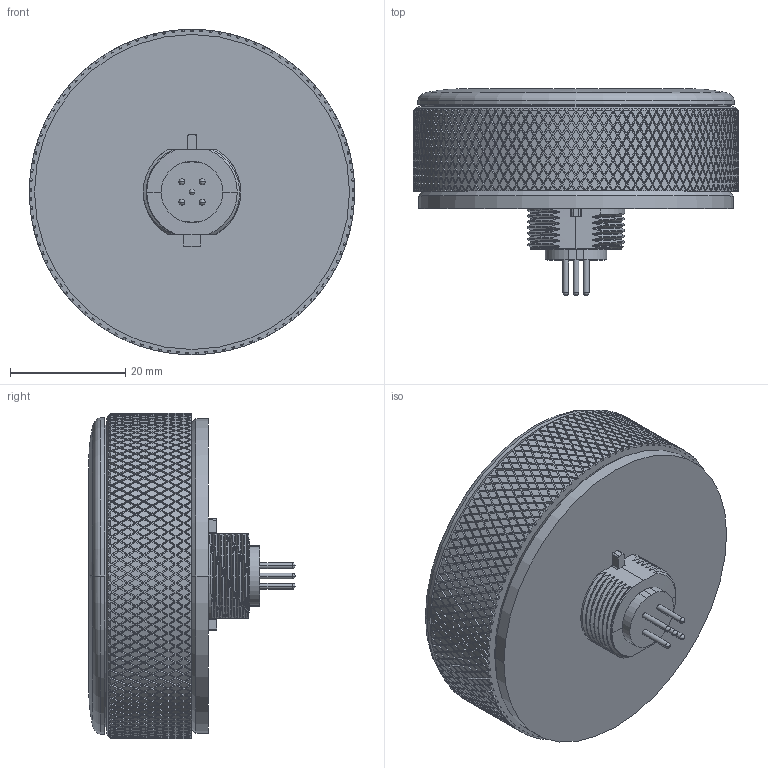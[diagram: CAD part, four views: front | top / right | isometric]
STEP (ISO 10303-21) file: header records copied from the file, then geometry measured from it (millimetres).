
FILE_DESCRIPTION((''),'2;1');
FILE_NAME('TEYY-X_MODELS','2022-10-17T',('kdooley'),(''),'PRO/ENGINEER BY PARAMETRIC TECHNOLOGY CORPORATION, 2016100','PRO/ENGINEER BY PARAMETRIC TECHNOLOGY CORPORATION, 2016100','');
FILE_SCHEMA(('CONFIG_CONTROL_DESIGN'));
Products named in the file (1): TEYY-X_MODELS
Bounding box: 56.39 x 35.81 x 56.39 mm (x, y, z)
Volume: 51655.7 mm3; surface area: 11881.3 mm2
Topology: 1 solids, 13 shells, 6139 faces, 15204 edges, 10053 vertices
Faces by surface type: plane 4614, cylinder 1272, cone 136, bspline 91, torus 14, sphere 10, revolution 2
Entity records: 183351 total; most frequent: CARTESIAN_POINT 56306, ORIENTED_EDGE 30388, DIRECTION 18204, EDGE_CURVE 15194, VERTEX_POINT 10053, B_SPLINE_CURVE_WITH_KNOTS 9780, EDGE_LOOP 7111, AXIS2_PLACEMENT_3D 6740
